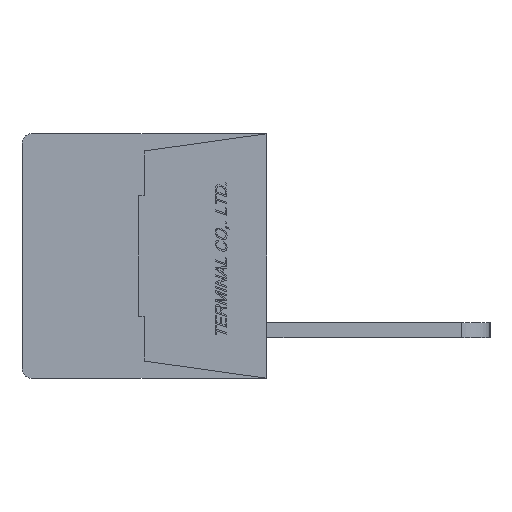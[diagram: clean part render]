
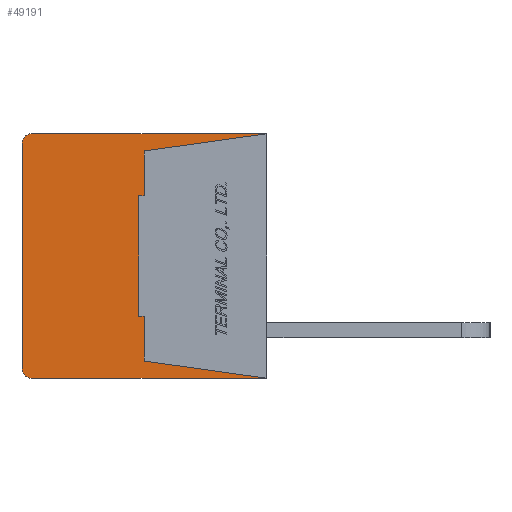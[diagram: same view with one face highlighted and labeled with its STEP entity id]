
A CAD part, left-side view. The second image highlights one B-rep face of the part: STEP entity #49191.
In plain terms, the highlighted planar face has unit normal (-1, 0, 0).
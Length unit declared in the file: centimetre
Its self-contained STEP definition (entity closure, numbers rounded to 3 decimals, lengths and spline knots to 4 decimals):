
#2519=CIRCLE('',#84334,0.05);
#2520=CIRCLE('',#84337,0.05);
#4337=VERTEX_POINT('',#68199);
#4338=VERTEX_POINT('',#68201);
#4339=VERTEX_POINT('',#68205);
#4340=VERTEX_POINT('',#68209);
#4341=VERTEX_POINT('',#68213);
#4342=VERTEX_POINT('',#68217);
#4343=VERTEX_POINT('',#68221);
#4344=VERTEX_POINT('',#68223);
#4345=VERTEX_POINT('',#68225);
#4346=VERTEX_POINT('',#68227);
#4347=VERTEX_POINT('',#68229);
#4348=VERTEX_POINT('',#68231);
#9502=VECTOR('',#57093,1.);
#9506=VECTOR('',#57102,1.);
#9509=VECTOR('',#57110,1.);
#9510=VECTOR('',#57112,1.);
#9511=VECTOR('',#57113,1.);
#9512=VECTOR('',#57114,1.);
#9513=VECTOR('',#57115,1.);
#9514=VECTOR('',#57116,1.);
#9515=VECTOR('',#57117,1.);
#9516=VECTOR('',#57118,1.);
#15245=LINE('',#68200,#9502);
#15249=LINE('',#68210,#9506);
#15252=LINE('',#68218,#9509);
#15253=LINE('',#68220,#9510);
#15254=LINE('',#68222,#9511);
#15255=LINE('',#68224,#9512);
#15256=LINE('',#68226,#9513);
#15257=LINE('',#68228,#9514);
#15258=LINE('',#68230,#9515);
#15259=LINE('',#68232,#9516);
#21658=EDGE_CURVE('',#4338,#4337,#15245,.T.);
#21661=EDGE_CURVE('',#4339,#4337,#2519,.T.);
#21663=EDGE_CURVE('',#4339,#4340,#15249,.T.);
#21665=EDGE_CURVE('',#4341,#4340,#2520,.T.);
#21667=EDGE_CURVE('',#4341,#4342,#15252,.T.);
#21668=EDGE_CURVE('',#4343,#4338,#15253,.T.);
#21669=EDGE_CURVE('',#4342,#4344,#15254,.T.);
#21670=EDGE_CURVE('',#4344,#4345,#15255,.T.);
#21671=EDGE_CURVE('',#4345,#4346,#15256,.T.);
#21672=EDGE_CURVE('',#4346,#4347,#15257,.T.);
#21673=EDGE_CURVE('',#4347,#4348,#15258,.T.);
#21674=EDGE_CURVE('',#4348,#4343,#15259,.T.);
#31536=ORIENTED_EDGE('',*,*,#21668,.T.);
#31537=ORIENTED_EDGE('',*,*,#21658,.T.);
#31538=ORIENTED_EDGE('',*,*,#21661,.F.);
#31539=ORIENTED_EDGE('',*,*,#21663,.T.);
#31540=ORIENTED_EDGE('',*,*,#21665,.F.);
#31541=ORIENTED_EDGE('',*,*,#21667,.T.);
#31542=ORIENTED_EDGE('',*,*,#21669,.T.);
#31543=ORIENTED_EDGE('',*,*,#21670,.T.);
#31544=ORIENTED_EDGE('',*,*,#21671,.T.);
#31545=ORIENTED_EDGE('',*,*,#21672,.T.);
#31546=ORIENTED_EDGE('',*,*,#21673,.T.);
#31547=ORIENTED_EDGE('',*,*,#21674,.T.);
#42769=EDGE_LOOP('',(#31536,#31537,#31538,#31539,#31540,#31541,#31542,#31543,
#31544,#31545,#31546,#31547));
#46074=FACE_BOUND('',#42769,.T.);
#49191=ADVANCED_FACE('',(#46074),#51892,.F.);
#51892=PLANE('',#84339);
#57093=DIRECTION('',(0.,1.,0.));
#57098=DIRECTION('',(1.,0.,0.));
#57099=DIRECTION('',(0.,0.,-0.05));
#57102=DIRECTION('',(0.,0.,-1.));
#57106=DIRECTION('',(1.,0.,0.));
#57107=DIRECTION('',(0.,0.,-0.05));
#57110=DIRECTION('',(0.,-1.,0.));
#57111=DIRECTION('',(1.,0.,0.));
#57112=DIRECTION('',(0.,-0.99,0.139));
#57113=DIRECTION('',(0.,0.99,0.139));
#57114=DIRECTION('',(0.,0.,1.));
#57115=DIRECTION('',(0.,1.,0.));
#57116=DIRECTION('',(0.,0.,1.));
#57117=DIRECTION('',(0.,-1.,0.));
#57118=DIRECTION('',(0.,0.,1.));
#68199=CARTESIAN_POINT('',(-1.,1.23,0.64));
#68200=CARTESIAN_POINT('',(-1.,0.,0.64));
#68201=CARTESIAN_POINT('',(-1.,0.,0.64));
#68205=CARTESIAN_POINT('',(-1.,1.28,0.59));
#68206=CARTESIAN_POINT('',(-1.,1.23,0.59));
#68209=CARTESIAN_POINT('',(-1.,1.28,-0.59));
#68210=CARTESIAN_POINT('',(-1.,1.28,0.59));
#68213=CARTESIAN_POINT('',(-1.,1.23,-0.64));
#68214=CARTESIAN_POINT('',(-1.,1.23,-0.59));
#68217=CARTESIAN_POINT('',(-1.,0.,-0.64));
#68218=CARTESIAN_POINT('',(-1.,1.23,-0.64));
#68219=CARTESIAN_POINT('',(-1.,0.6345,0.));
#68220=CARTESIAN_POINT('',(-1.,0.64,0.55));
#68221=CARTESIAN_POINT('',(-1.,0.64,0.55));
#68222=CARTESIAN_POINT('',(-1.,0.,-0.64));
#68223=CARTESIAN_POINT('',(-1.,0.64,-0.55));
#68224=CARTESIAN_POINT('',(-1.,0.64,-0.55));
#68225=CARTESIAN_POINT('',(-1.,0.64,-0.315));
#68226=CARTESIAN_POINT('',(-1.,0.64,-0.315));
#68227=CARTESIAN_POINT('',(-1.,0.67,-0.315));
#68228=CARTESIAN_POINT('',(-1.,0.67,-0.315));
#68229=CARTESIAN_POINT('',(-1.,0.67,0.315));
#68230=CARTESIAN_POINT('',(-1.,0.67,0.315));
#68231=CARTESIAN_POINT('',(-1.,0.64,0.315));
#68232=CARTESIAN_POINT('',(-1.,0.64,0.315));
#84334=AXIS2_PLACEMENT_3D('',#68206,#57098,#57099);
#84337=AXIS2_PLACEMENT_3D('',#68214,#57106,#57107);
#84339=AXIS2_PLACEMENT_3D('',#68219,#57111,$);
